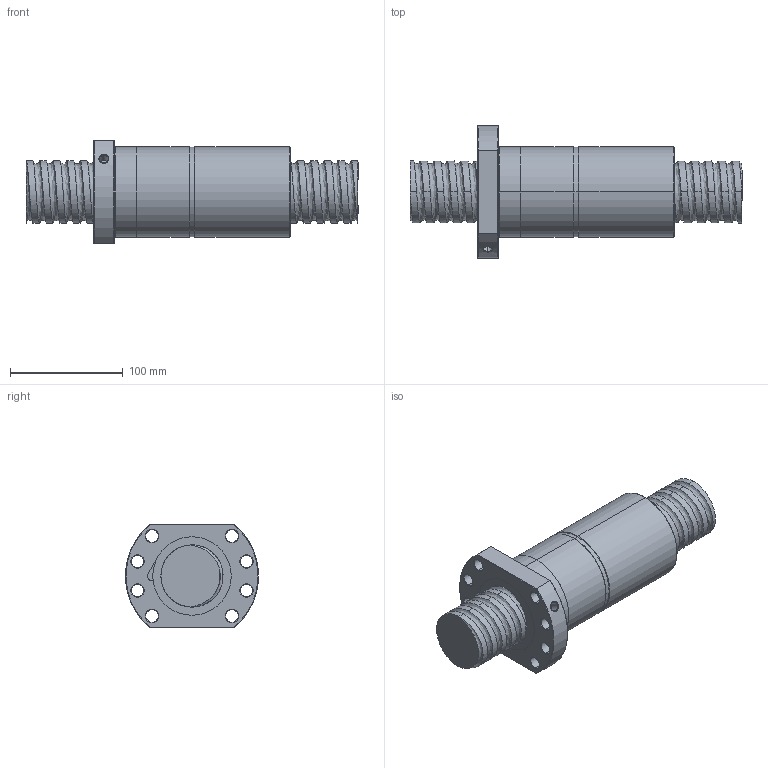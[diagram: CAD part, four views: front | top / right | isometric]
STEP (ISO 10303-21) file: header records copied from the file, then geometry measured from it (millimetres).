
FILE_DESCRIPTION (( 'STEP AP214' ), '1' );
FILE_NAME ('FDDC05512T5-F-C.STEP', '2010-07-07T01:35:03', ( 'XPAUTO' ), ( 'XPAUTO' ), 'SwSTEP 2.0', 'SolidWorks 2007', '' );
FILE_SCHEMA (( 'AUTOMOTIVE_DESIGN' ));
Length unit declared in the file: millimetre
Products named in the file (3): FDDC05512T5-F-C.sldasm-Part-1_預設; FDDC05512T5-F-C; FDDC05512T5-F-C.sldasm-Part-2_預設
Assembly tree (2 placements, depth 2):
  FDDC05512T5-F-C
    FDDC05512T5-F-C.sldasm-Part-1_預設
    FDDC05512T5-F-C.sldasm-Part-2_預設
Bounding box: 294 x 117.61 x 92 mm (x, y, z)
Volume: 1174274.7 mm3; surface area: 158438.9 mm2
Topology: 2 solids, 2 shells, 163 faces, 407 edges, 253 vertices
Faces by surface type: cylinder 94, cone 32, plane 22, torus 10, bspline 5
Entity records: 47492 total; most frequent: CARTESIAN_POINT 43649, ORIENTED_EDGE 814, DIRECTION 741, EDGE_CURVE 407, AXIS2_PLACEMENT_3D 299, VERTEX_POINT 253, EDGE_LOOP 188, FACE_OUTER_BOUND 163
